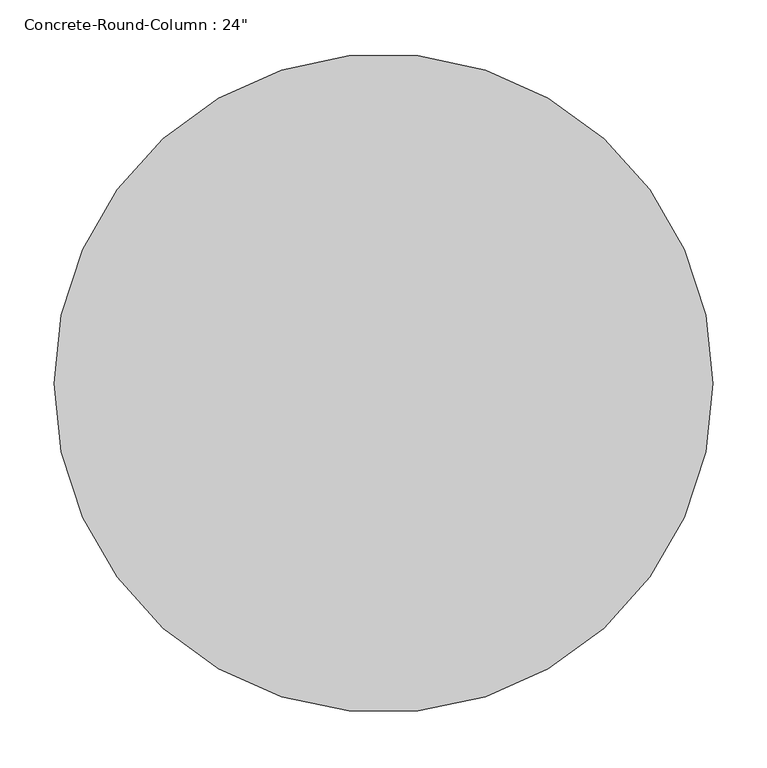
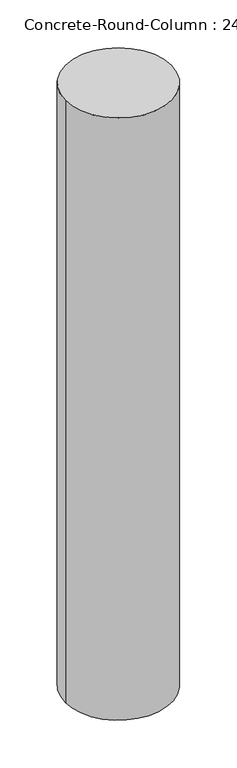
"""IFC4 building model written with IfcOpenShell, lengths in millimetres: column geometry."""

from ifc_helpers import new_model, si_unit, point, origin, origin_with_axes, origin_2d, place, context, project, spatial, circle_curve, trimmed, segment, composite_curve, outline, extrude, source, transform, mapped, element, save


def column_10b8ecd9(model_context):
    return source(origin(), model_context, "Body", "SweptSolid", [
        extrude(outline(composite_curve([segment(trimmed(circle_curve(origin_2d(), 304.8), [point((-304.8, 0.0))], [point((304.8, 0.0))], False, "CARTESIAN"), True, "CONTINUOUS"), segment(trimmed(circle_curve(origin_2d(), 304.8), [point((304.8, 0.0))], [point((-304.8, 0.0))], False, "CARTESIAN"), True, "CONTINUOUS")], self_intersect=False)), origin_with_axes(), (0.0, 0.0, 1.0), 3657.6),
    ])


if __name__ == "__main__":
    model = new_model("IFC4")
    model_context = context("Model", 3, world=origin())
    ifc_project = project(units=[si_unit("LENGTHUNIT", "METRE", prefix="MILLI")], contexts=[model_context])
    site = spatial("IfcSite", under=ifc_project)
    building = spatial("IfcBuilding", under=site)
    placement = place(None, origin())
    column_shape = column_10b8ecd9(model_context)
    element("IfcColumn", 1, ObjectType="Concrete-Round-Column : 24\"", at=placement, inside=building, context=model_context, shape_type="MappedRepresentation", body=[
        mapped(column_shape, transform((0.0, 0.0, 0.0), x_axis=(1.0, 0.0, 0.0), y_axis=(0.0, 1.0, 0.0), z_axis=(0.0, 0.0, 1.0))),
    ])
    save(model, "model.ifc")
